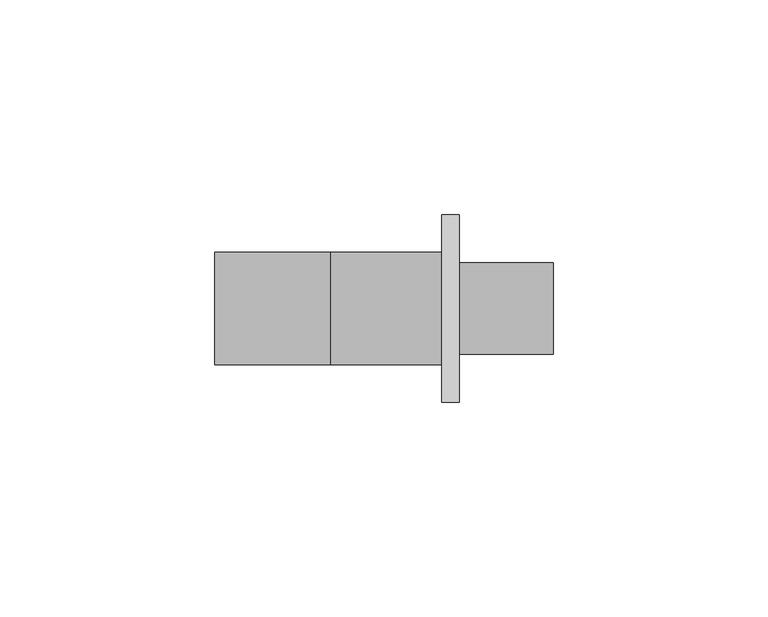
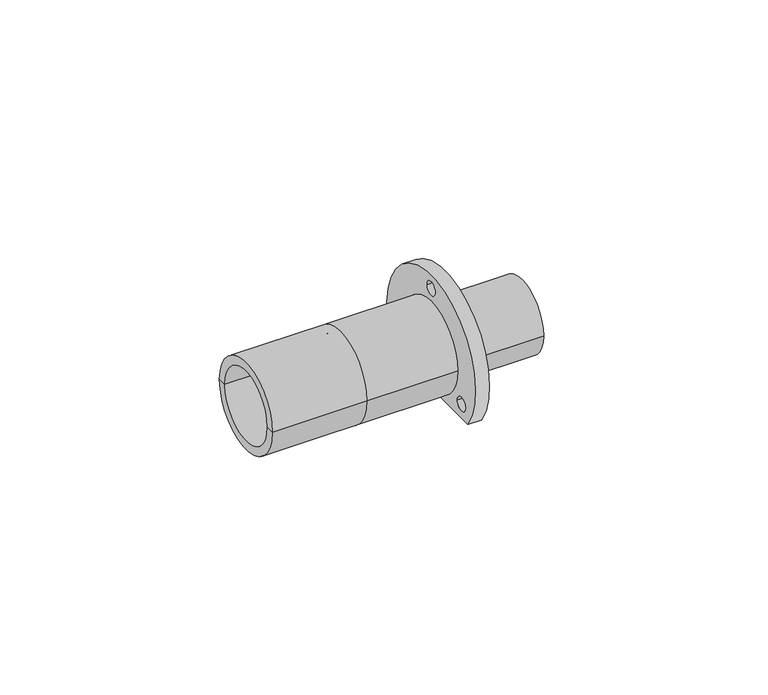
"""IFC4 building model written with IfcOpenShell, lengths in millimetres: pipe fitting geometry, NLRS_50_PIF_UN_muurplaat rechte aansluiting met buitendraad MF 1_2_geb : DN15-15 / Rp1/2''-R1/2''."""

from ifc_helpers import new_model, si_unit, frame, origin, place, context, project, spatial, polyline, circle_curve, source, transform, mapped, element, save
from ifc_brep_helpers import plane_surface, cylinder_surface, revolved_surface, advanced_brep


def pipe_fitting_dd8badfe(model_context):
    return source(origin(), model_context, "Body", "AdvancedBrep", [
        advanced_brep(
        [(-39.5, -10.65, 0.0), (-39.5, 10.65, 0.0), (-39.5, 13.15, 0.0), (-39.5, -13.15, 0.0), (17.5, 18.15, -13.15), (17.5, -18.15, -13.15), (17.5, -17.0319875, -8.9), (17.5, -12.9680125, -8.9), (17.5, 12.9680125, -8.9), (17.5, 17.0319875, -8.9), (17.5, -2.0319875, 17.0), (17.5, 2.0319875, 17.0), (17.5, 10.65, 0.0), (17.5, -10.65, 0.0), (-12.5, 13.15, 0.0), (-12.5, -13.15, 0.0), (-12.5, -10.65, 0.0), (-12.5, 10.65, 0.0), (-12.5, 0.0, 0.0), (13.5, 13.15, 0.0), (13.5, 0.0, -13.15), (13.5, -13.15, 0.0), (13.5, -18.15, -13.15), (13.5, 18.15, -13.15), (13.5, -17.0319875, -8.9), (13.5, -12.9680125, -8.9), (13.5, 12.9680125, -8.9), (13.5, 17.0319875, -8.9), (13.5, -2.0319875, 17.0), (13.5, 2.0319875, 17.0), (39.5, 10.65, 0.0), (39.5, -10.65, 0.0), (39.5, 0.0, 0.0)],
        [
            (0, 1, circle_curve(frame((-39.5, 0.0, 0.0), z_axis=(1.0, 0.0, 0.0), x_axis=(0.0, 1.0, 0.0)), 10.65)),
            (1, 2),
            (2, 3, circle_curve(frame((-39.5, 0.0, 0.0), z_axis=(-1.0, 0.0, 0.0), x_axis=(0.0, 1.0, 0.0)), 13.15)),
            (3, 0),
            (1, 0, circle_curve(frame((-39.5, 0.0, 0.0), z_axis=(1.0, 0.0, 0.0), x_axis=(0.0, 1.0, 0.0)), 10.65)),
            (3, 2, circle_curve(frame((-39.5, 0.0, 0.0), z_axis=(-1.0, 0.0, 0.0), x_axis=(0.0, 1.0, 0.0)), 13.15)),
            (4, 5, circle_curve(frame((17.5, 0.0, -0.8844649), z_axis=(1.0, 0.0, 0.0), x_axis=(0.0, 1.0, 0.0)), 21.9058406)),
            (5, 4),
            (6, 7, circle_curve(frame((17.5, -15.0, -8.9), z_axis=(-1.0, 0.0, 0.0), x_axis=(0.0, 1.0, 0.0)), 2.0319875)),
            (7, 6, circle_curve(frame((17.5, -15.0, -8.9), z_axis=(-1.0, 0.0, 0.0), x_axis=(0.0, 1.0, 0.0)), 2.0319875)),
            (8, 9, circle_curve(frame((17.5, 15.0, -8.9), z_axis=(-1.0, 0.0, 0.0), x_axis=(0.0, 1.0, 0.0)), 2.0319875)),
            (9, 8, circle_curve(frame((17.5, 15.0, -8.9), z_axis=(-1.0, 0.0, 0.0), x_axis=(0.0, 1.0, 0.0)), 2.0319875)),
            (10, 11, circle_curve(frame((17.5, 0.0, 17.0), z_axis=(-1.0, 0.0, 0.0), x_axis=(0.0, 1.0, 0.0)), 2.0319875)),
            (11, 10, circle_curve(frame((17.5, 0.0, 17.0), z_axis=(-1.0, 0.0, 0.0), x_axis=(0.0, 1.0, 0.0)), 2.0319875)),
            (12, 13, circle_curve(frame((17.5, 0.0, 0.0), z_axis=(-1.0, 0.0, 0.0), x_axis=(0.0, 1.0, 0.0)), 10.65)),
            (13, 12, circle_curve(frame((17.5, 0.0, 0.0), z_axis=(-1.0, 0.0, 0.0), x_axis=(0.0, 1.0, 0.0)), 10.65)),
            (2, 14),
            (14, 15, circle_curve(frame((-12.5, 0.0, 0.0), z_axis=(-1.0, 0.0, 0.0), x_axis=(0.0, 1.0, 0.0)), 13.15)),
            (15, 3),
            (15, 14, circle_curve(frame((-12.5, 0.0, 0.0), z_axis=(-1.0, 0.0, 0.0), x_axis=(0.0, 1.0, 0.0)), 13.15)),
            (0, 16),
            (16, 17, circle_curve(frame((-12.5, 0.0, 0.0), z_axis=(1.0, 0.0, 0.0), x_axis=(0.0, 1.0, 0.0)), 10.65)),
            (17, 1),
            (17, 16, circle_curve(frame((-12.5, 0.0, 0.0), z_axis=(1.0, 0.0, 0.0), x_axis=(0.0, 1.0, 0.0)), 10.65)),
            (16, 18),
            (18, 17),
            (14, 19),
            (19, 20, circle_curve(frame((13.5, 0.0, 0.0), z_axis=(-1.0, 0.0, 0.0), x_axis=(0.0, 1.0, 0.0)), 13.15)),
            (20, 21, circle_curve(frame((13.5, 0.0, 0.0), z_axis=(-1.0, 0.0, 0.0), x_axis=(0.0, 1.0, 0.0)), 13.15)),
            (21, 15),
            (21, 19, circle_curve(frame((13.5, 0.0, 0.0), z_axis=(-1.0, 0.0, 0.0), x_axis=(0.0, 1.0, 0.0)), 13.15)),
            (22, 23, circle_curve(frame((13.5, 0.0, -0.8844649), z_axis=(-1.0, 0.0, 0.0), x_axis=(0.0, 1.0, 0.0)), 21.9058406)),
            (23, 20),
            (20, 22),
            (24, 25, circle_curve(frame((13.5, -15.0, -8.9), z_axis=(1.0, 0.0, 0.0), x_axis=(0.0, 1.0, 0.0)), 2.0319875)),
            (25, 24, circle_curve(frame((13.5, -15.0, -8.9), z_axis=(1.0, 0.0, 0.0), x_axis=(0.0, 1.0, 0.0)), 2.0319875)),
            (26, 27, circle_curve(frame((13.5, 15.0, -8.9), z_axis=(1.0, 0.0, 0.0), x_axis=(0.0, 1.0, 0.0)), 2.0319875)),
            (27, 26, circle_curve(frame((13.5, 15.0, -8.9), z_axis=(1.0, 0.0, 0.0), x_axis=(0.0, 1.0, 0.0)), 2.0319875)),
            (28, 29, circle_curve(frame((13.5, 0.0, 17.0), z_axis=(1.0, 0.0, 0.0), x_axis=(0.0, 1.0, 0.0)), 2.0319875)),
            (29, 28, circle_curve(frame((13.5, 0.0, 17.0), z_axis=(1.0, 0.0, 0.0), x_axis=(0.0, 1.0, 0.0)), 2.0319875)),
            (4, 23),
            (22, 5),
            (6, 24),
            (25, 7),
            (8, 26),
            (27, 9),
            (10, 28),
            (29, 11),
            (12, 30),
            (30, 31, circle_curve(frame((39.5, 0.0, 0.0), z_axis=(-1.0, 0.0, 0.0), x_axis=(0.0, 1.0, 0.0)), 10.65)),
            (31, 13),
            (31, 30, circle_curve(frame((39.5, 0.0, 0.0), z_axis=(-1.0, 0.0, 0.0), x_axis=(0.0, 1.0, 0.0)), 10.65)),
            (30, 32),
            (32, 31),
        ],
        [
            plane_surface(frame((-39.5, 0.0, 0.0), z_axis=(-1.0, 0.0, 0.0), x_axis=(0.0, 1.0, 0.0))),
            plane_surface(frame((17.5, 0.0, 0.0), z_axis=(1.0, 0.0, 0.0), x_axis=(0.0, 1.0, 0.0))),
            cylinder_surface(frame((2000.0, 0.0, 0.0), z_axis=(-1.0, 0.0, 0.0), x_axis=(0.0, 1.0, 0.0)), 13.15),
            revolved_surface(polyline([(-39.5, 10.65, 0.0), (-12.5, 10.65, 0.0)]), (2000.0, 0.0, 0.0), (-1.0, 0.0, 0.0)),
            plane_surface(frame((-12.5, 0.0, 0.0), z_axis=(-1.0, 0.0, 0.0), x_axis=(0.0, 1.0, 0.0))),
            plane_surface(frame((13.5, 21.9058406, -0.8844649), z_axis=(-1.0, 0.0, 0.0), x_axis=(0.0, 0.0, -1.0))),
            cylinder_surface(frame((13.5, 0.0, -0.8844649), z_axis=(1.0, 0.0, 0.0), x_axis=(0.0, 1.0, 0.0)), 21.9058406),
            plane_surface(frame((17.5, -18.15, -13.15), z_axis=(0.0, 0.0, -1.0), x_axis=(-1.0, 0.0, 0.0))),
            revolved_surface(polyline([(13.5, -12.9680125, -8.9), (17.5, -12.9680125, -8.9)]), (0.0, -15.0, -8.9), (-1.0, 0.0, 0.0)),
            revolved_surface(polyline([(13.5, 17.0319875, -8.9), (17.5, 17.0319875, -8.9)]), (0.0, 15.0, -8.9), (-1.0, 0.0, 0.0)),
            revolved_surface(polyline([(13.5, 2.0319875, 17.0), (17.5, 2.0319875, 17.0)]), (0.0, 0.0, 17.0), (-1.0, 0.0, 0.0)),
            cylinder_surface(frame((2000.0, 0.0, 0.0), z_axis=(-1.0, 0.0, 0.0), x_axis=(0.0, 1.0, 0.0)), 10.65),
            plane_surface(frame((39.5, 0.0, 0.0), z_axis=(1.0, 0.0, 0.0), x_axis=(0.0, 1.0, 0.0))),
        ],
        [
            (0, [[1, 2, 3, 4]]),
            (0, [[-2, 5, -4, 6]]),
            (1, [[7, 8], [9, 10], [11, 12], [13, 14], [15, 16]]),
            (2, [[-3, 17, 18, 19]]),
            (2, [[-6, -19, 20, -17]]),
            (3, [[-1, 21, 22, 23]]),
            (3, [[-5, -23, 24, -21]]),
            (4, [[-22, 25, 26]]),
            (4, [[-24, -26, -25]]),
            (2, [[-18, 27, 28, 29, 30]]),
            (2, [[-20, -30, 31, -27]]),
            (5, [[32, 33, -28, -31, -29, 34], [35, 36], [37, 38], [39, 40]]),
            (6, [[-7, 41, -32, 42]]),
            (7, [[-41, -8, -42, -34, -33]]),
            (8, [[-9, 43, -36, 44]]),
            (8, [[-10, -44, -35, -43]]),
            (9, [[-11, 45, -38, 46]]),
            (9, [[-12, -46, -37, -45]]),
            (10, [[-13, 47, -40, 48]]),
            (10, [[-14, -48, -39, -47]]),
            (11, [[49, 50, 51, -15]]),
            (11, [[-49, -16, -51, 52]]),
            (12, [[-50, 53, 54]]),
            (12, [[-52, -54, -53]]),
        ],
    ),
    ])


if __name__ == "__main__":
    model = new_model("IFC4")
    model_context = context("Model", 3, world=origin())
    ifc_project = project(units=[si_unit("LENGTHUNIT", "METRE", prefix="MILLI")], contexts=[model_context])
    site = spatial("IfcSite", under=ifc_project)
    building = spatial("IfcBuilding", under=site)
    placement = place(None, origin())
    pipe_fitting_shape = pipe_fitting_dd8badfe(model_context)
    element("IfcPipeFitting", 1, ObjectType="NLRS_50_PIF_UN_muurplaat rechte aansluiting met buitendraad MF 1_2_geb : DN15-15 / Rp1/2''-R1/2''", at=placement, inside=building, context=model_context, shape_type="MappedRepresentation", body=[
        mapped(pipe_fitting_shape, transform((0.0, 0.0, 0.0), x_axis=(1.0, 0.0, 0.0), y_axis=(0.0, 1.0, 0.0), z_axis=(0.0, 0.0, 1.0))),
    ])
    save(model, "model.ifc")
